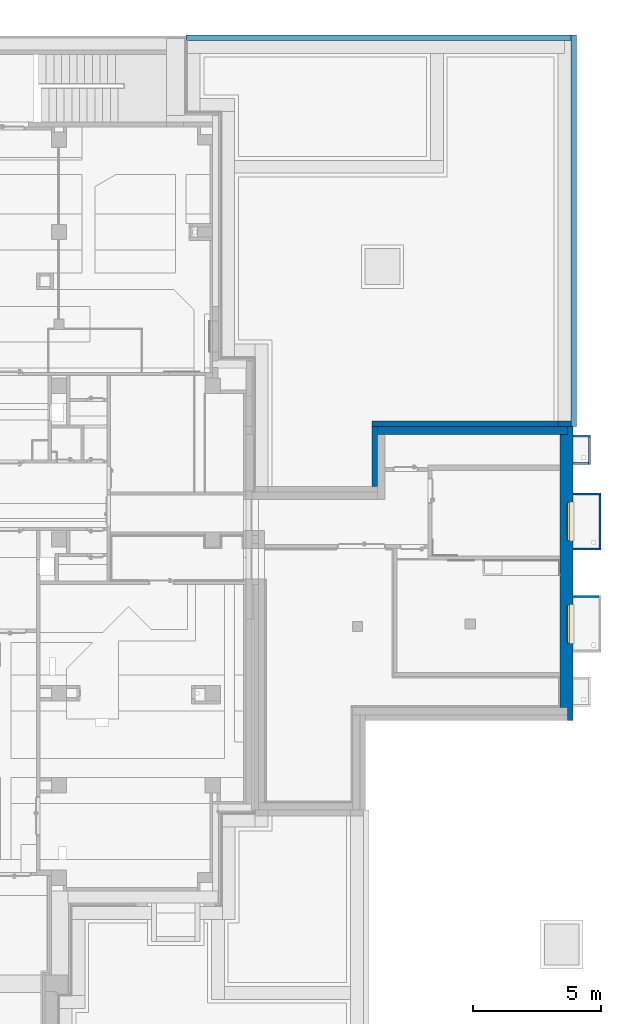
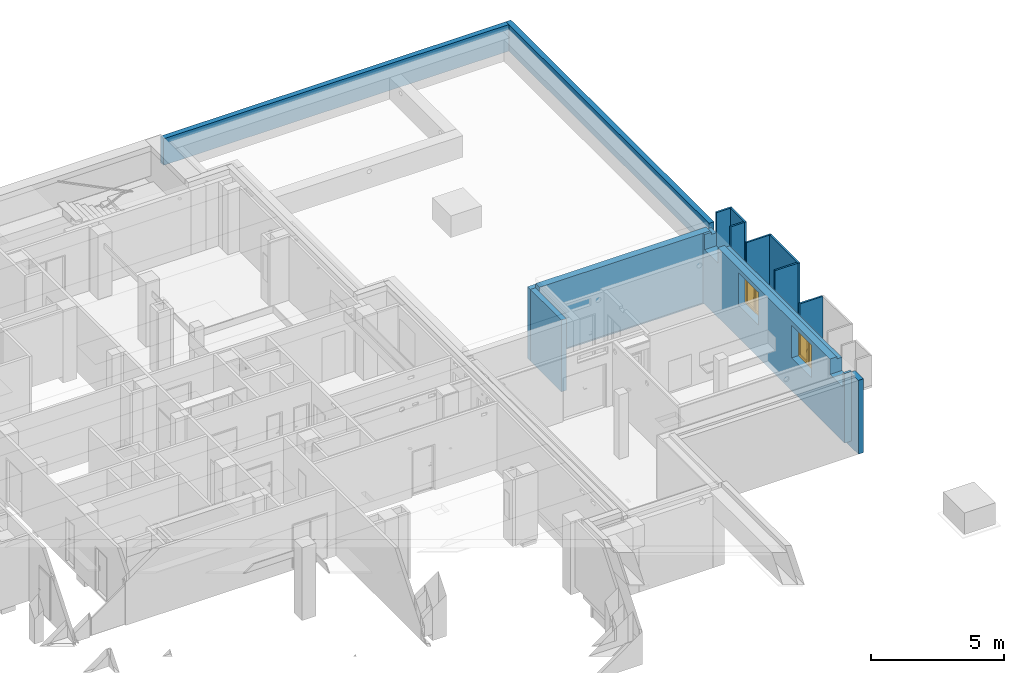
# One storey, part 45 of 84: 14 walls, 2 windows, 4 openings.
"""IFC4 building model written with IfcOpenShell, lengths in metres."""

from ifc_helpers import new_model, entity, si_unit, converted_unit, derived_unit, frame, frame_2d, origin, origin_with_axes, place, context, subcontext, project, spatial, polyline, rectangle, outline, extrude, clip, bounded_halfspace, closed_shell, open_shell, surface_model, source, transform, mapped, material, layer, layer_set, layer_usage, element, fill, save


model = new_model("IFC4")

# Units and contexts
model_context = context("Model", 3, precision=1e-05, world=origin())
body_context = subcontext(model_context, "Body", "Model", "MODEL_VIEW")
ifc_project = project(units=[si_unit("LENGTHUNIT", "METRE"), si_unit("AREAUNIT", "SQUARE_METRE"), si_unit("VOLUMEUNIT", "CUBIC_METRE"), si_unit("MASSUNIT", "GRAM", prefix="KILO"), converted_unit("PLANEANGLEUNIT", "DEGREE", entity("IfcPlaneAngleMeasure", 0.0174532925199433), si_unit("PLANEANGLEUNIT", "RADIAN"), dimensions=[0, 0, 0, 0, 0, 0, 0]), derived_unit("THERMALTRANSMITTANCEUNIT", [(si_unit("POWERUNIT", "WATT"), 1), (si_unit("THERMODYNAMICTEMPERATUREUNIT", "KELVIN"), -1), (si_unit("LENGTHUNIT", "METRE"), -2)]), derived_unit("VOLUMETRICFLOWRATEUNIT", [(si_unit("LENGTHUNIT", "METRE"), 3), (converted_unit("TIMEUNIT", "hour", entity("IfcTimeMeasure", 3600.0), si_unit("TIMEUNIT", "SECOND"), dimensions=[0, 0, 1, 0, 0, 0, 0]), -1), (si_unit("LENGTHUNIT", "METRE"), -1)])], contexts=[model_context])

# Site, building, storey
site_placement = place(None, origin())
site = spatial("IfcSite", under=ifc_project, at=site_placement, Name="3. ASŘ", CompositionType="ELEMENT")
building_placement = place(site_placement, origin())
building = spatial("IfcBuilding", under=site, at=building_placement, Name="Pavilon C", CompositionType="ELEMENT")
storey_placement = place(building_placement, frame((0.0, 0.0, -3.3)))
storey = spatial("IfcBuildingStorey", under=building, at=storey_placement, Name="Půdorys 1.PP", CompositionType="ELEMENT", Elevation=-3.3)

# Walls
ifc_material_1 = material(Name="PERIMETR")
ifc_layer_1 = layer(ifc_material_1, 0.22)
ifc_layer_set_1 = layer_set([ifc_layer_1])
ifc_layer_usage_1 = layer_usage(ifc_layer_set_1, "AXIS2", "POSITIVE", 0.0)
wall_1_placement = place(storey_placement, frame((56.1588883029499, 17.6, -0.6)))
element("IfcWall", 1, at=wall_1_placement, inside=storey, material=ifc_layer_usage_1, Name="PERIMETR", context=body_context, shape_type="SweptSolid", body=[
    extrude(rectangle(XDim=7.26611169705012, YDim=0.22, at=frame_2d((3.63305584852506, 0.11), x_axis=(1.0, 0.0))), origin_with_axes(), (0.0, 0.0, 1.0), 3.3),
])
ifc_material_2 = material(Name="PERIMETR")
ifc_layer_2 = layer(ifc_material_2, 0.22)
ifc_layer_set_2 = layer_set([ifc_layer_2])
ifc_layer_usage_2 = layer_usage(ifc_layer_set_2, "AXIS2", "POSITIVE", 0.0)
wall_2_placement = place(storey_placement, frame((63.425, 17.6, -0.6)))
element("IfcWall", 2, at=wall_2_placement, inside=storey, material=ifc_layer_usage_2, Name="PERIMETR", context=body_context, shape_type="SweptSolid", body=[
    extrude(rectangle(XDim=0.5, YDim=0.22, at=frame_2d((0.25, 0.11), x_axis=(1.0, 0.0))), origin_with_axes(), (0.0, 0.0, 1.0), 2.4),
])
ifc_material_3 = material(Name="PERIMETR")
ifc_layer_3 = layer(ifc_material_3, 0.22)
ifc_layer_set_3 = layer_set([ifc_layer_3])
ifc_layer_usage_3 = layer_usage(ifc_layer_set_3, "AXIS2", "POSITIVE", 0.0)
wall_3_placement = place(storey_placement, frame((56.3788883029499, 15.27, -0.6), z_axis=(0.0, 0.0, 1.0), x_axis=(0.0, 1.0, 0.0)))
element("IfcWall", 3, at=wall_3_placement, inside=storey, material=ifc_layer_usage_3, Name="PERIMETR", context=body_context, shape_type="SweptSolid", body=[
    extrude(rectangle(XDim=2.32999999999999, YDim=0.22, at=frame_2d((1.16499999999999, 0.11), x_axis=(1.0, 0.0))), origin_with_axes(), (0.0, 0.0, 1.0), 3.3),
])
ifc_material_4 = material(Name="PERIMETR")
ifc_layer_4 = layer(ifc_material_4, 0.22)
ifc_layer_set_4 = layer_set([ifc_layer_4])
ifc_layer_usage_4 = layer_usage(ifc_layer_set_4, "AXIS2", "POSITIVE", 0.0)
wall_4_placement = place(storey_placement, frame((63.925, 32.895, 1.8), z_axis=(0.0, 0.0, 1.0), x_axis=(0.0, -1.0, 0.0)))
element("IfcWall", 4, at=wall_4_placement, inside=storey, material=ifc_layer_usage_4, Name="PERIMETR", context=body_context, shape_type="SweptSolid", body=[
    extrude(rectangle(XDim=15.295, YDim=0.22, at=frame_2d((7.6475, 0.11), x_axis=(1.0, 0.0))), origin_with_axes(), (0.0, 0.0, 1.0), 1.22),
])
ifc_material_5 = material(Name="PERIMETR")
ifc_layer_5 = layer(ifc_material_5, 0.22)
ifc_layer_set_5 = layer_set([ifc_layer_5])
ifc_layer_usage_5 = layer_usage(ifc_layer_set_5, "AXIS2", "POSITIVE", 0.0)
wall_5_placement = place(storey_placement, frame((48.905, 32.675, 1.8), z_axis=(0.0, 0.0, 1.0), x_axis=(1.0, -2.42208975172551e-16, 0.0)))
element("IfcWall", 5, at=wall_5_placement, inside=storey, material=ifc_layer_usage_5, Name="PERIMETR", context=body_context, shape_type="SweptSolid", body=[
    extrude(rectangle(XDim=15.02, YDim=0.22, at=frame_2d((7.50999999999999, 0.11), x_axis=(1.0, 0.0))), origin_with_axes(), (0.0, 0.0, 1.0), 1.22),
])
ifc_material_6 = material(Name="POHLEDOVY BETON")
ifc_layer_6 = layer(ifc_material_6, 0.08)
ifc_layer_set_6 = layer_set([ifc_layer_6])
ifc_layer_usage_6 = layer_usage(ifc_layer_set_6, "AXIS2", "POSITIVE", 0.0)
wall_6_placement = place(storey_placement, frame((64.7, 16.12, 1.92), z_axis=(0.0, 0.0, 1.0), x_axis=(0.0, 1.0, 0.0)))
element("IfcWall", 6, at=wall_6_placement, inside=storey, material=ifc_layer_usage_6, Name="STĚNA ANGLICKÉHO DVORKU", context=body_context, shape_type="SweptSolid", body=[
    extrude(rectangle(XDim=1.08, YDim=0.08, at=frame_2d((0.54, 0.04), x_axis=(1.0, 0.0))), origin_with_axes(), (0.0, 0.0, 1.0), 1.8),
])
ifc_material_7 = material(Name="POHLEDOVY BETON")
ifc_layer_7 = layer(ifc_material_7, 0.08)
ifc_layer_set_7 = layer_set([ifc_layer_7])
ifc_layer_usage_7 = layer_usage(ifc_layer_set_7, "AXIS2", "POSITIVE", 0.0)
wall_7_placement = place(storey_placement, frame((64.02, 16.12, 1.92)))
element("IfcWall", 7, at=wall_7_placement, inside=storey, material=ifc_layer_usage_7, Name="STĚNA ANGLICKÉHO DVORKU", context=body_context, shape_type="SweptSolid", body=[
    extrude(rectangle(XDim=0.6, YDim=0.08, at=frame_2d((0.3, 0.04), x_axis=(1.0, 0.0))), origin_with_axes(), (0.0, 0.0, 1.0), 1.8),
])
ifc_material_8 = material(Name="POHLEDOVY BETON")
ifc_layer_8 = layer(ifc_material_8, 0.08)
ifc_layer_set_8 = layer_set([ifc_layer_8])
ifc_layer_usage_8 = layer_usage(ifc_layer_set_8, "AXIS2", "POSITIVE", 0.0)
wall_8_placement = place(storey_placement, frame((64.02, 17.2, 1.92)))
element("IfcWall", 8, at=wall_8_placement, inside=storey, material=ifc_layer_usage_8, Name="STĚNA ANGLICKÉHO DVORKU", context=body_context, shape_type="SweptSolid", body=[
    extrude(rectangle(XDim=0.68, YDim=0.08, at=frame_2d((0.34, 0.04), x_axis=(1.0, 0.0))), origin_with_axes(), (0.0, 0.0, 1.0), 1.8),
])

# Wall, openings, windows
ifc_material_9 = material(Name="ZELEZOBETONOVÁ KCE")
ifc_layer_9 = layer(ifc_material_9, 0.3)
ifc_material_10 = material(Name="PERIMETR")
ifc_layer_10 = layer(ifc_material_10, 0.22)
ifc_layer_set_9 = layer_set([ifc_layer_9, ifc_layer_10])
ifc_layer_usage_9 = layer_usage(ifc_layer_set_9, "AXIS2", "POSITIVE", 0.0)
wall_9_placement = place(storey_placement, frame((63.5, 17.3, -0.6), z_axis=(0.0, 0.0, 1.0), x_axis=(0.0, -1.0, 0.0)))
wall_9 = element("IfcWall", 9, at=wall_9_placement, inside=storey, material=ifc_layer_usage_9, Name="ZELEZOBETONOVÁ KCE", context=body_context, shape_type="Clipping", body=[
    clip(clip(extrude(outline(polyline([(-11.17, 0.0), (-0.520000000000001, 0.0), (-0.520000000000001, 0.3), (0.0, 0.3), (0.0, 0.52), (-11.47, 0.52), (-11.47, 0.3), (-11.17, 0.3), (-11.17, 0.0)])), frame((11.17, 0.0, 0.0), z_axis=(0.0, 0.0, 1.0), x_axis=(1.0, 0.0, 0.0)), (0.0, 0.0, 1.0), 3.5), bounded_halfspace(frame((5.325, 0.15, 0.3), z_axis=(0.0, 0.0, 1.0), x_axis=(0.0, -1.0, 0.0)), True, origin_with_axes(), polyline([(0.0, 0.3), (0.0, 0.0), (10.65, 0.0), (10.65, 0.3), (0.0, 0.3)]))), bounded_halfspace(frame((5.39833333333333, 0.373333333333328, 3.4), z_axis=(0.0, 0.0, -1.0), x_axis=(1.0, -1.39922261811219e-14, 0.0)), True, origin_with_axes(), polyline([(10.65, 0.3), (11.17, 0.299999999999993), (11.17, 0.519999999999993), (-0.3, 0.519999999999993), (-0.3, 0.299999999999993), (0.0, 0.3), (10.65, 0.3)]))),
])
opening_1_placement = place(wall_9_placement, frame((8.15, 0.3, 1.8), z_axis=(0.0, -1.0, 0.0), x_axis=(0.0, 0.0, 1.0)))
opening_1 = element("IfcOpeningElement", 10, at=opening_1_placement, cuts=wall_9, Name="Okenní otvor", ObjectType="Opening", context=body_context, shape_type="SweptSolid", body=[
    extrude(outline(polyline([(0.0, 1.5), (1.5, 1.5), (1.5, 0.0), (0.0, 0.0), (0.0, 1.5)])), origin_with_axes(), (0.0, 0.0, 1.0), 0.3),
    extrude(outline(polyline([(0.0, 1.5), (1.5, 1.5), (1.5, 0.0), (0.0, 0.0), (0.0, 1.5)])), frame((0.0, 0.0, -0.22), z_axis=(0.0, 0.0, 1.0), x_axis=(1.0, 0.0, 0.0)), (0.0, 0.0, 1.0), 0.22),
])
opening_2_placement = place(wall_9_placement, frame((4.15, 0.3, 1.8), z_axis=(0.0, -1.0, 0.0), x_axis=(0.0, 0.0, 1.0)))
opening_2 = element("IfcOpeningElement", 11, at=opening_2_placement, cuts=wall_9, Name="Okenní otvor", ObjectType="Opening", context=body_context, shape_type="SweptSolid", body=[
    extrude(outline(polyline([(0.0, 1.5), (1.5, 1.5), (1.5, 0.0), (0.0, 0.0), (0.0, 1.5)])), origin_with_axes(), (0.0, 0.0, 1.0), 0.3),
    extrude(outline(polyline([(0.0, 1.5), (1.5, 1.5), (1.5, 0.0), (0.0, 0.0), (0.0, 1.5)])), frame((0.0, 0.0, -0.22), z_axis=(0.0, 0.0, 1.0), x_axis=(1.0, 0.0, 0.0)), (0.0, 0.0, 1.0), 0.22),
])
opening_3_placement = place(wall_9_placement, frame((10.55, 0.52, 2.8), z_axis=(0.0, -1.0, 0.0), x_axis=(0.0, 0.0, 1.0)))
element("IfcOpeningElement", 12, at=opening_3_placement, cuts=wall_9, Name="VZT", ObjectType="Opening", context=body_context, shape_type="SweptSolid", body=[
    extrude(outline(polyline([(0.0, 1.0), (0.7, 1.0), (0.7, 0.0), (0.0, 0.0), (0.0, 1.0)])), origin_with_axes(), (0.0, 0.0, 1.0), 0.22),
    extrude(outline(polyline([(0.0, 1.0), (0.7, 1.0), (0.7, 0.0), (0.0, 0.0), (0.0, 1.0)])), frame((0.0, 0.0, 0.22), z_axis=(0.0, 0.0, 1.0), x_axis=(1.0, 0.0, 0.0)), (0.0, 0.0, 1.0), 0.3),
])
opening_4_placement = place(wall_9_placement, frame((1.09999999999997, 0.52, 2.8), z_axis=(0.0, -1.0, 0.0), x_axis=(0.0, 0.0, 1.0)))
element("IfcOpeningElement", 13, at=opening_4_placement, cuts=wall_9, Name="VZT", ObjectType="Opening", context=body_context, shape_type="SweptSolid", body=[
    extrude(outline(polyline([(0.0, 0.999999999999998), (0.7, 0.999999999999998), (0.7, 0.0), (0.0, 0.0), (0.0, 0.999999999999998)])), origin_with_axes(), (0.0, 0.0, 1.0), 0.22),
    extrude(outline(polyline([(0.0, 0.999999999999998), (0.7, 0.999999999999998), (0.7, 0.0), (0.0, 0.0), (0.0, 0.999999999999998)])), frame((0.0, 0.0, 0.22), z_axis=(0.0, 0.0, 1.0), x_axis=(1.0, 0.0, 0.0)), (0.0, 0.0, 1.0), 0.3),
])
shared_shape = source(origin_with_axes(), body_context, "Body", "SurfaceModel", [
    surface_model("IfcShellBasedSurfaceModel", [(0.0, 0.0820000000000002, 1.5), (0.0, 0.082, -5.02105187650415e-18), (0.08, 0.082, -5.02105187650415e-18), (0.08, 0.0820000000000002, 1.5), (0.0, 0.0, 5.02105187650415e-18), (0.0, 1.84741111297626e-16, 1.5), (0.08, 1.84741111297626e-16, 1.5), (0.08, 0.0, 5.02105187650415e-18)], [closed_shell([[[0, 1, 2, 3]], [[4, 5, 6, 7]], [[1, 0, 5, 4]], [[2, 1, 4, 7]], [[3, 2, 7, 6]], [[0, 3, 6, 5]]], orient=[[False], [False], [False], [False], [False], [False]])]),
    surface_model("IfcShellBasedSurfaceModel", [(1.42, 0.0820000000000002, 1.5), (1.42, 0.082, -5.02105187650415e-18), (1.5, 0.082, -5.02105187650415e-18), (1.5, 0.0820000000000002, 1.5), (1.42, 0.0, 5.02105187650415e-18), (1.42, 1.84741111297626e-16, 1.5), (1.5, 1.84741111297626e-16, 1.5), (1.5, 0.0, 5.02105187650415e-18)], [closed_shell([[[0, 1, 2, 3]], [[4, 5, 6, 7]], [[1, 0, 5, 4]], [[2, 1, 4, 7]], [[3, 2, 7, 6]], [[0, 3, 6, 5]]], orient=[[False], [False], [False], [False], [False], [False]])]),
    surface_model("IfcShellBasedSurfaceModel", [(0.08, 0.082, 0.08), (0.08, 0.082, -5.02105187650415e-18), (1.42, 0.082, -5.02105187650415e-18), (1.42, 0.082, 0.08), (0.08, 0.0, 5.02105187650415e-18), (0.08, 1.4210854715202e-17, 0.08), (1.42, 1.4210854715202e-17, 0.08), (1.42, 0.0, 5.02105187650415e-18)], [closed_shell([[[0, 1, 2, 3]], [[4, 5, 6, 7]], [[1, 0, 5, 4]], [[2, 1, 4, 7]], [[3, 2, 7, 6]], [[0, 3, 6, 5]]], orient=[[False], [False], [False], [False], [False], [False]])]),
    surface_model("IfcShellBasedSurfaceModel", [(0.08, 0.0820000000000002, 1.5), (0.08, 0.0820000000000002, 1.42), (1.42, 0.0820000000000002, 1.42), (1.42, 0.0820000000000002, 1.5), (0.08, 1.70530256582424e-16, 1.42), (0.08, 1.84741111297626e-16, 1.5), (1.42, 1.84741111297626e-16, 1.5), (1.42, 1.70530256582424e-16, 1.42)], [closed_shell([[[0, 1, 2, 3]], [[4, 5, 6, 7]], [[1, 0, 5, 4]], [[2, 1, 4, 7]], [[3, 2, 7, 6]], [[0, 3, 6, 5]]], orient=[[False], [False], [False], [False], [False], [False]])]),
    surface_model("IfcShellBasedSurfaceModel", [(0.05, 0.112, 1.45), (0.05, 0.112, 0.05), (0.13, 0.112, 0.05), (0.13, 0.112, 1.45), (0.05, 0.027, 0.05), (0.05, 0.0270000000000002, 1.45), (0.13, 0.0270000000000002, 1.45), (0.13, 0.027, 0.05)], [closed_shell([[[0, 1, 2, 3]], [[4, 5, 6, 7]], [[1, 0, 5, 4]], [[2, 1, 4, 7]], [[3, 2, 7, 6]], [[0, 3, 6, 5]]], orient=[[False], [False], [False], [False], [False], [False]])]),
    surface_model("IfcShellBasedSurfaceModel", [(0.6995, 0.112, 1.45), (0.6995, 0.112, 0.05), (0.7795, 0.112, 0.05), (0.7795, 0.112, 1.45), (0.6995, 0.027, 0.05), (0.6995, 0.0270000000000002, 1.45), (0.7795, 0.0270000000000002, 1.45), (0.7795, 0.027, 0.05)], [closed_shell([[[0, 1, 2, 3]], [[4, 5, 6, 7]], [[1, 0, 5, 4]], [[2, 1, 4, 7]], [[3, 2, 7, 6]], [[0, 3, 6, 5]]], orient=[[False], [False], [False], [False], [False], [False]])]),
    surface_model("IfcShellBasedSurfaceModel", [(0.13, 0.112, 0.13), (0.13, 0.112, 0.05), (0.6995, 0.112, 0.05), (0.6995, 0.112, 0.13), (0.13, 0.027, 0.05), (0.13, 0.027, 0.13), (0.6995, 0.027, 0.13), (0.6995, 0.027, 0.05)], [closed_shell([[[0, 1, 2, 3]], [[4, 5, 6, 7]], [[1, 0, 5, 4]], [[2, 1, 4, 7]], [[3, 2, 7, 6]], [[0, 3, 6, 5]]], orient=[[False], [False], [False], [False], [False], [False]])]),
    surface_model("IfcShellBasedSurfaceModel", [(0.13, 0.112, 1.45), (0.13, 0.112, 1.37), (0.6995, 0.112, 1.37), (0.6995, 0.112, 1.45), (0.13, 0.0270000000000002, 1.37), (0.13, 0.0270000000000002, 1.45), (0.6995, 0.0270000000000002, 1.45), (0.6995, 0.0270000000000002, 1.37)], [closed_shell([[[0, 1, 2, 3]], [[4, 5, 6, 7]], [[1, 0, 5, 4]], [[2, 1, 4, 7]], [[3, 2, 7, 6]], [[0, 3, 6, 5]]], orient=[[False], [False], [False], [False], [False], [False]])]),
    surface_model("IfcShellBasedSurfaceModel", [(0.727, 0.112, 0.77), (0.752, 0.112, 0.77), (0.752, 0.112, 0.73), (0.727, 0.112, 0.73), (0.727, 0.122, 0.73), (0.752, 0.122, 0.73), (0.752, 0.122, 0.77), (0.727, 0.122, 0.77)], [closed_shell([[[0, 1, 2, 3]], [[4, 5, 6, 7]], [[3, 4, 7, 0]], [[2, 5, 4, 3]], [[1, 6, 5, 2]], [[0, 7, 6, 1]]], orient=[[False], [False], [False], [False], [False], [False]])]),
    surface_model("IfcShellBasedSurfaceModel", [(0.7495, 0.122, 0.75), (0.748160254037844, 0.122, 0.745), (0.7445, 0.122, 0.741339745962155), (0.7395, 0.122, 0.74), (0.7345, 0.122, 0.741339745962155), (0.730839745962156, 0.122, 0.745), (0.7295, 0.122, 0.75), (0.730839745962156, 0.122, 0.755), (0.7345, 0.122, 0.758660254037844), (0.7395, 0.122, 0.76), (0.7445, 0.122, 0.758660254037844), (0.748160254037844, 0.122, 0.755), (0.748160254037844, 0.167, 0.755), (0.7495, 0.162, 0.75), (0.7445, 0.170660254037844, 0.758660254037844), (0.7395, 0.172, 0.76), (0.7345, 0.170660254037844, 0.758660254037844), (0.730839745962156, 0.167, 0.755), (0.7295, 0.162, 0.75), (0.730839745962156, 0.157, 0.745), (0.7345, 0.153339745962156, 0.741339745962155), (0.7395, 0.152, 0.74), (0.7445, 0.153339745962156, 0.741339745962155), (0.748160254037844, 0.157, 0.745), (0.748160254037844, 0.167, 0.635), (0.7495, 0.162, 0.635), (0.7445, 0.170660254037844, 0.635), (0.7395, 0.172, 0.635), (0.7345, 0.170660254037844, 0.635), (0.730839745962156, 0.167, 0.635), (0.7295, 0.162, 0.635), (0.730839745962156, 0.157, 0.635), (0.7345, 0.153339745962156, 0.635), (0.7395, 0.152, 0.635), (0.7445, 0.153339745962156, 0.635), (0.748160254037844, 0.157, 0.635)], [open_shell([[[0, 1, 2, 3, 4, 5, 6, 7, 8, 9, 10, 11]], [[0, 11, 12, 13]], [[11, 10, 14, 12]], [[10, 9, 15, 14]], [[9, 8, 16, 15]], [[8, 7, 17, 16]], [[7, 6, 18, 17]], [[6, 5, 19, 18]], [[5, 4, 20, 19]], [[4, 3, 21, 20]], [[3, 2, 22, 21]], [[2, 1, 23, 22]], [[1, 0, 13, 23]], [[13, 12, 24, 25]], [[12, 14, 26, 24]], [[14, 15, 27, 26]], [[15, 16, 28, 27]], [[16, 17, 29, 28]], [[17, 18, 30, 29]], [[18, 19, 31, 30]], [[19, 20, 32, 31]], [[20, 21, 33, 32]], [[21, 22, 34, 33]], [[22, 23, 35, 34]], [[23, 13, 25, 35]]], orient=[[False], [False], [False], [False], [False], [False], [False], [False], [False], [False], [False], [False], [False], [False], [False], [False], [False], [False], [False], [False], [False], [False], [False], [False], [False]])]),
    surface_model("IfcShellBasedSurfaceModel", [(0.7205, 0.112, 1.45), (0.7205, 0.112, 0.05), (0.8005, 0.112, 0.05), (0.8005, 0.112, 1.45), (0.7205, 0.027, 0.05), (0.7205, 0.0270000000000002, 1.45), (0.8005, 0.0270000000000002, 1.45), (0.8005, 0.027, 0.05)], [closed_shell([[[0, 1, 2, 3]], [[4, 5, 6, 7]], [[1, 0, 5, 4]], [[2, 1, 4, 7]], [[3, 2, 7, 6]], [[0, 3, 6, 5]]], orient=[[False], [False], [False], [False], [False], [False]])]),
    surface_model("IfcShellBasedSurfaceModel", [(1.37, 0.112, 1.45), (1.37, 0.112, 0.05), (1.45, 0.112, 0.05), (1.45, 0.112, 1.45), (1.37, 0.027, 0.05), (1.37, 0.0270000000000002, 1.45), (1.45, 0.0270000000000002, 1.45), (1.45, 0.027, 0.05)], [closed_shell([[[0, 1, 2, 3]], [[4, 5, 6, 7]], [[1, 0, 5, 4]], [[2, 1, 4, 7]], [[3, 2, 7, 6]], [[0, 3, 6, 5]]], orient=[[False], [False], [False], [False], [False], [False]])]),
    surface_model("IfcShellBasedSurfaceModel", [(0.8005, 0.112, 0.13), (0.8005, 0.112, 0.05), (1.37, 0.112, 0.05), (1.37, 0.112, 0.13), (0.8005, 0.027, 0.05), (0.8005, 0.027, 0.13), (1.37, 0.027, 0.13), (1.37, 0.027, 0.05)], [closed_shell([[[0, 1, 2, 3]], [[4, 5, 6, 7]], [[1, 0, 5, 4]], [[2, 1, 4, 7]], [[3, 2, 7, 6]], [[0, 3, 6, 5]]], orient=[[False], [False], [False], [False], [False], [False]])]),
    surface_model("IfcShellBasedSurfaceModel", [(0.8005, 0.112, 1.45), (0.8005, 0.112, 1.37), (1.37, 0.112, 1.37), (1.37, 0.112, 1.45), (0.8005, 0.0270000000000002, 1.37), (0.8005, 0.0270000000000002, 1.45), (1.37, 0.0270000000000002, 1.45), (1.37, 0.0270000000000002, 1.37)], [closed_shell([[[0, 1, 2, 3]], [[4, 5, 6, 7]], [[1, 0, 5, 4]], [[2, 1, 4, 7]], [[3, 2, 7, 6]], [[0, 3, 6, 5]]], orient=[[False], [False], [False], [False], [False], [False]])]),
    surface_model("IfcShellBasedSurfaceModel", [(0.13, 0.0695, 0.13), (0.6995, 0.0695, 0.13), (0.6995, 0.0695000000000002, 1.37), (0.13, 0.0695000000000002, 1.37)], [open_shell([[[0, 1, 2, 3]]], orient=[[False]])]),
    surface_model("IfcShellBasedSurfaceModel", [(0.8005, 0.0695, 0.13), (1.37, 0.0695, 0.13), (1.37, 0.0695000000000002, 1.37), (0.8005, 0.0695000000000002, 1.37)], [open_shell([[[0, 1, 2, 3]]], orient=[[False]])]),
])
window_1_placement = place(opening_1_placement, frame((0.0, -3.63797880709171e-15, -0.0819999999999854), z_axis=(1.0, 0.0, 0.0), x_axis=(0.0, 1.0, -1.22464679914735e-16)))
window_1 = element("IfcWindow", 14, at=window_1_placement, inside=storey, Name="I.OP01", OverallHeight=1.5, OverallWidth=1.5, PartitioningType="USERDEFINED", PredefinedType="WINDOW", context=body_context, shape_type="MappedRepresentation", body=[
    mapped(shared_shape, transform((0.0, 0.0, 0.0), x_axis=(1.0, 0.0, 0.0), y_axis=(0.0, 1.0, 0.0), z_axis=(0.0, 0.0, 1.0), scale=1.0)),
])
fill(opening_1, window_1)
window_2_placement = place(opening_2_placement, frame((0.0, -3.63797880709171e-15, -0.0819999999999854), z_axis=(1.0, 0.0, 0.0), x_axis=(0.0, 1.0, -1.22464679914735e-16)))
window_2 = element("IfcWindow", 15, at=window_2_placement, inside=storey, Name="I.OP01", OverallHeight=1.5, OverallWidth=1.5, PartitioningType="USERDEFINED", PredefinedType="WINDOW", context=body_context, shape_type="MappedRepresentation", body=[
    mapped(shared_shape, transform((0.0, 0.0, 0.0), x_axis=(1.0, 0.0, 0.0), y_axis=(0.0, 1.0, 0.0), z_axis=(0.0, 0.0, 1.0), scale=1.0)),
])
fill(opening_2, window_2)

# Walls
ifc_material_11 = material(Name="POHLEDOVY BETON")
ifc_layer_11 = layer(ifc_material_11, 0.08)
ifc_layer_set_10 = layer_set([ifc_layer_11])
ifc_layer_usage_10 = layer_usage(ifc_layer_set_10, "AXIS2", "POSITIVE", 0.0)
wall_10_placement = place(storey_placement, frame((64.02, 12.795, 0.92)))
element("IfcWall", 16, at=wall_10_placement, inside=storey, material=ifc_layer_usage_10, Name="STĚNA ANGLICKÉHO DVORKU", context=body_context, shape_type="SweptSolid", body=[
    extrude(rectangle(XDim=1.0, YDim=0.08, at=frame_2d((0.5, 0.04), x_axis=(1.0, 0.0))), origin_with_axes(), (0.0, 0.0, 1.0), 2.8),
])
ifc_material_12 = material(Name="POHLEDOVY BETON")
ifc_layer_12 = layer(ifc_material_12, 0.08)
ifc_layer_set_11 = layer_set([ifc_layer_12])
ifc_layer_usage_11 = layer_usage(ifc_layer_set_11, "AXIS2", "POSITIVE", 0.0)
wall_11_placement = place(storey_placement, frame((65.1, 12.795, 0.92), z_axis=(0.0, 0.0, 1.0), x_axis=(0.0, 1.0, 0.0)))
element("IfcWall", 17, at=wall_11_placement, inside=storey, material=ifc_layer_usage_11, Name="STĚNA ANGLICKÉHO DVORKU", context=body_context, shape_type="SweptSolid", body=[
    extrude(rectangle(XDim=2.13, YDim=0.08, at=frame_2d((1.065, 0.04), x_axis=(1.0, 0.0))), origin_with_axes(), (0.0, 0.0, 1.0), 2.8),
])
ifc_material_13 = material(Name="POHLEDOVY BETON")
ifc_layer_13 = layer(ifc_material_13, 0.08)
ifc_layer_set_12 = layer_set([ifc_layer_13])
ifc_layer_usage_12 = layer_usage(ifc_layer_set_12, "AXIS2", "POSITIVE", 0.0)
wall_12_placement = place(storey_placement, frame((64.02, 14.925, 0.92)))
element("IfcWall", 18, at=wall_12_placement, inside=storey, material=ifc_layer_usage_12, Name="STĚNA ANGLICKÉHO DVORKU", context=body_context, shape_type="SweptSolid", body=[
    extrude(rectangle(XDim=1.08, YDim=0.08, at=frame_2d((0.54, 0.04), x_axis=(1.0, 0.0))), origin_with_axes(), (0.0, 0.0, 1.0), 2.8),
])
ifc_material_14 = material(Name="ZELEZOBETONOVÁ KCE")
ifc_layer_14 = layer(ifc_material_14, 0.3)
ifc_layer_set_13 = layer_set([ifc_layer_14])
ifc_layer_usage_13 = layer_usage(ifc_layer_set_13, "AXIS2", "POSITIVE", 0.0)
wall_13_placement = place(storey_placement, frame((56.3788883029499, 17.3, -0.3)))
element("IfcWall", 19, at=wall_13_placement, inside=storey, material=ifc_layer_usage_13, Name="ZELEZOBETONOVÁ KCE", context=body_context, shape_type="SweptSolid", body=[
    extrude(rectangle(XDim=7.42111169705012, YDim=0.3, at=frame_2d((3.71055584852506, 0.15), x_axis=(1.0, 0.0))), origin_with_axes(), (0.0, 0.0, 1.0), 3.2),
])
ifc_material_15 = material(Name="POHLEDOVY BETON")
ifc_layer_15 = layer(ifc_material_15, 0.08)
ifc_layer_set_14 = layer_set([ifc_layer_15])
ifc_layer_usage_14 = layer_usage(ifc_layer_set_14, "AXIS2", "POSITIVE", 0.0)
wall_14_placement = place(storey_placement, frame((65.02, 11.005, 0.88), z_axis=(0.0, 0.0, 1.0), x_axis=(-1.0, 0.0, 0.0)))
element("IfcWall", 20, at=wall_14_placement, inside=storey, material=ifc_layer_usage_14, Name="STĚNA ANGLICKÉHO DVORKU", context=body_context, shape_type="SweptSolid", body=[
    extrude(rectangle(XDim=1.0, YDim=0.08, at=frame_2d((0.5, 0.04), x_axis=(1.0, 0.0))), origin_with_axes(), (0.0, 0.0, 1.0), 2.45),
])

save(model, "model.ifc")
